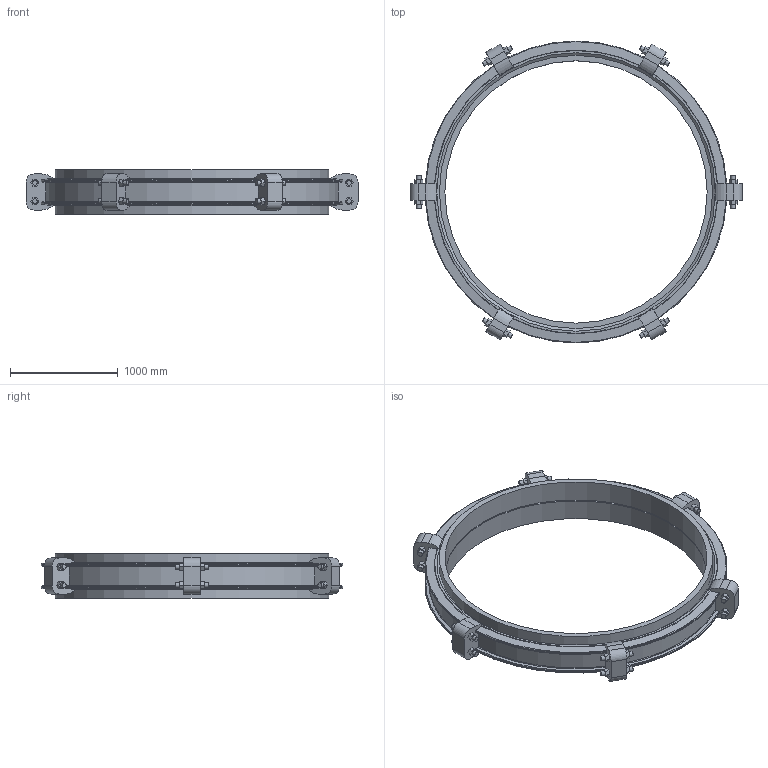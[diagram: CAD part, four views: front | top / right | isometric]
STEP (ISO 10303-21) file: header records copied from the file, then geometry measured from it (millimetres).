
FILE_DESCRIPTION(/* description */ ('VIC COUPLING FLEX STYLE W77 AGS VIC-RING ','CAx-IF Rec.Pracs.---Representation and Presentation of Product Manufacturing Information (PMI)---4.0---2014-10-13'),/* implementation_level */ '2;1');
FILE_NAME(/* name */ 'C:\Users\Vjadhav\AppData\Roaming\Autodesk\ApplicationPlugins\Victaulic.Temp\A52\Victaulic_Vic-Ring_Coupling Flexible_Style W77 (AGR)_100 (2500).stp',/* time_stamp */ '2021-12-20T11:08:12+06:00',/* author */ ('Vjadhav'),/* organization */ ('Victaulic'),/* preprocessor_version */ 'ST-DEVELOPER v17.2',/* originating_system */ 'Autodesk Inventor 2019',/* authorisation */ '');
FILE_SCHEMA (('AP242_MANAGED_MODEL_BASED_3D_ENGINEERING_MIM_LF { 1 0 10303 442 1 1 4 }'));
Length unit declared in the file: inch
Products named in the file (3): W77 VR-100.0; W77 VR-100.0_1; W77 VR-100.0_2
Assembly tree (3 placements, depth 2):
  W77 VR-100.0
    W77 VR-100.0_1
    W77 VR-100.0_2  x2
Bounding box: 3086.1 x 2806.7 x 417.83 mm (x, y, z)
Volume: 425470720.5 mm3; surface area: 16567402.4 mm2
Topology: 3 solids, 15 shells, 459 faces, 1177 edges, 796 vertices
Faces by surface type: plane 276, cylinder 109, torus 48, cone 26
Full cylindrical faces by diameter (mm): 44.45 x36, 47.625 x12, 2438.4 x2, 2520.95 x1, 2540 x4
Entity records: 15681 total; most frequent: CARTESIAN_POINT 3952, ORIENTED_EDGE 2334, DIRECTION 2265, EDGE_CURVE 1167, VERTEX_POINT 788, AXIS2_PLACEMENT_3D 781, LINE 703, VECTOR 703
